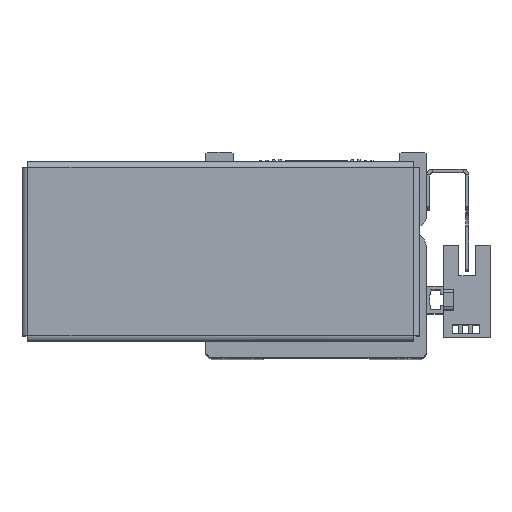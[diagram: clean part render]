
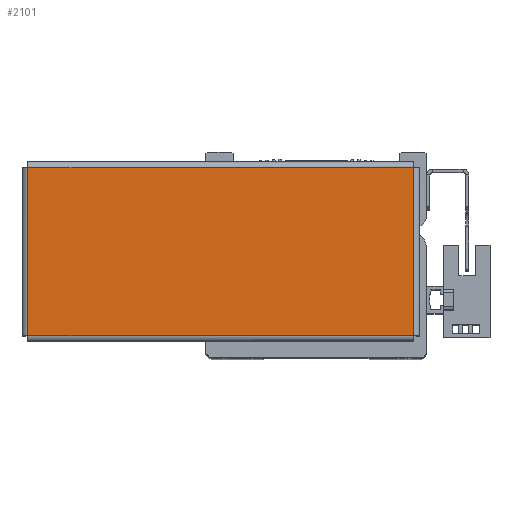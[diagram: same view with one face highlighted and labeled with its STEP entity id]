
A CAD part, top view. The second image highlights one B-rep face of the part: STEP entity #2101.
In plain terms, the highlighted planar face has unit normal (0, 0, 1) as drawn and (0, 0, -1) by its records, which use the part's own axes.
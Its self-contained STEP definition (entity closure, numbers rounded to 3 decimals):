
#1838 = FACE_OUTER_BOUND ( 'NONE', #24531, .T. ) ;
#2101 = ADVANCED_FACE ( 'NONE', ( #1838 ), #15618, .F. ) ;
#2451 = EDGE_CURVE ( 'NONE', #5500, #2963, #6563, .T. ) ;
#2963 = VERTEX_POINT ( 'NONE', #37347 ) ;
#3265 = VERTEX_POINT ( 'NONE', #27427 ) ;
#5500 = VERTEX_POINT ( 'NONE', #31982 ) ;
#6563 = LINE ( 'NONE', #35133, #35503 ) ;
#8212 = CARTESIAN_POINT ( 'NONE',  ( 56.863, 24.793, -1. ) ) ;
#9693 = VERTEX_POINT ( 'NONE', #17948 ) ;
#11032 = DIRECTION ( 'NONE',  ( 0., 1., 0. ) ) ;
#11826 = EDGE_CURVE ( 'NONE', #9693, #3265, #16262, .T. ) ;
#12346 = AXIS2_PLACEMENT_3D ( 'NONE', #27789, #33508, #18790 ) ;
#15618 = PLANE ( 'NONE',  #12346 ) ;
#16262 = LINE ( 'NONE', #8212, #26217 ) ;
#16821 = EDGE_CURVE ( 'NONE', #2963, #9693, #16913, .T. ) ;
#16913 = LINE ( 'NONE', #34600, #35419 ) ;
#17286 = ORIENTED_EDGE ( 'NONE', *, *, #2451, .T. ) ;
#17948 = CARTESIAN_POINT ( 'NONE',  ( 56.863, 24.763, -1. ) ) ;
#18790 = DIRECTION ( 'NONE',  ( 1., 0., 0. ) ) ;
#23450 = DIRECTION ( 'NONE',  ( 0., -1., 0. ) ) ;
#24531 = EDGE_LOOP ( 'NONE', ( #34536, #34099, #17286, #32395 ) ) ;
#24935 = CARTESIAN_POINT ( 'NONE',  ( 56.893, -24.763, -1. ) ) ;
#26217 = VECTOR ( 'NONE', #23450, 1000. ) ;
#27427 = CARTESIAN_POINT ( 'NONE',  ( 56.863, -24.763, -1. ) ) ;
#27789 = CARTESIAN_POINT ( 'NONE',  ( 0., 0., -1. ) ) ;
#27977 = DIRECTION ( 'NONE',  ( -1., 0., 0. ) ) ;
#28872 = LINE ( 'NONE', #24935, #35978 ) ;
#31982 = CARTESIAN_POINT ( 'NONE',  ( -56.863, -24.763, -1. ) ) ;
#32262 = EDGE_CURVE ( 'NONE', #3265, #5500, #28872, .T. ) ;
#32395 = ORIENTED_EDGE ( 'NONE', *, *, #16821, .T. ) ;
#33508 = DIRECTION ( 'NONE',  ( 0., 0., 1. ) ) ;
#34099 = ORIENTED_EDGE ( 'NONE', *, *, #32262, .T. ) ;
#34536 = ORIENTED_EDGE ( 'NONE', *, *, #11826, .T. ) ;
#34600 = CARTESIAN_POINT ( 'NONE',  ( -56.893, 24.763, -1. ) ) ;
#35133 = CARTESIAN_POINT ( 'NONE',  ( -56.863, -24.793, -1. ) ) ;
#35419 = VECTOR ( 'NONE', #37733, 1000. ) ;
#35503 = VECTOR ( 'NONE', #11032, 1000. ) ;
#35978 = VECTOR ( 'NONE', #27977, 1000. ) ;
#37347 = CARTESIAN_POINT ( 'NONE',  ( -56.863, 24.763, -1. ) ) ;
#37733 = DIRECTION ( 'NONE',  ( 1., 0., 0. ) ) ;
